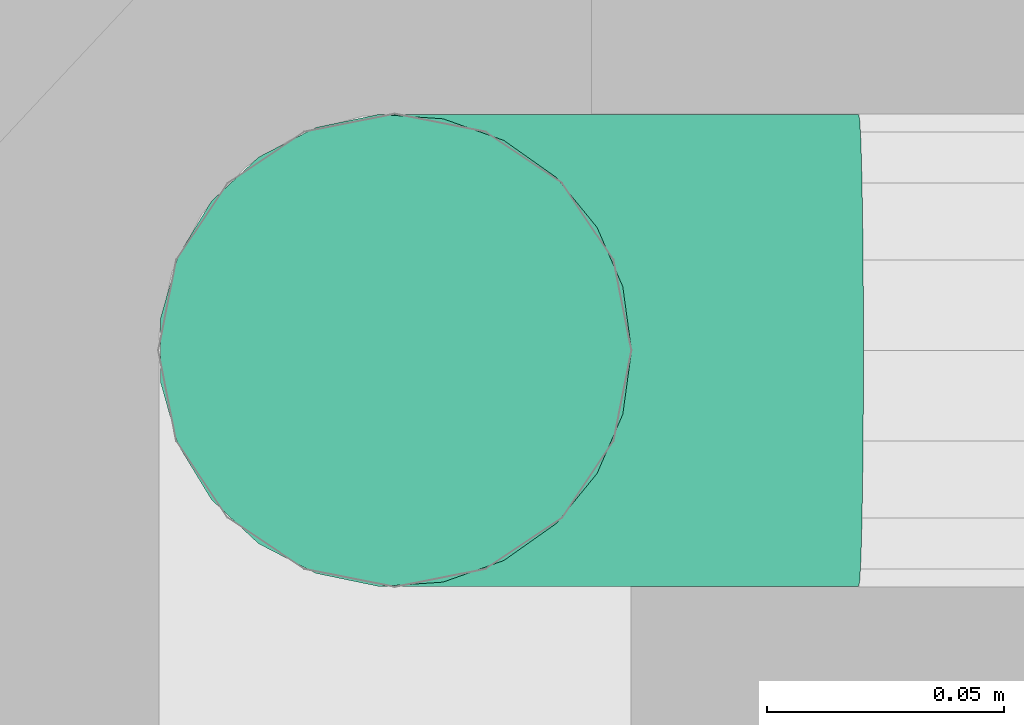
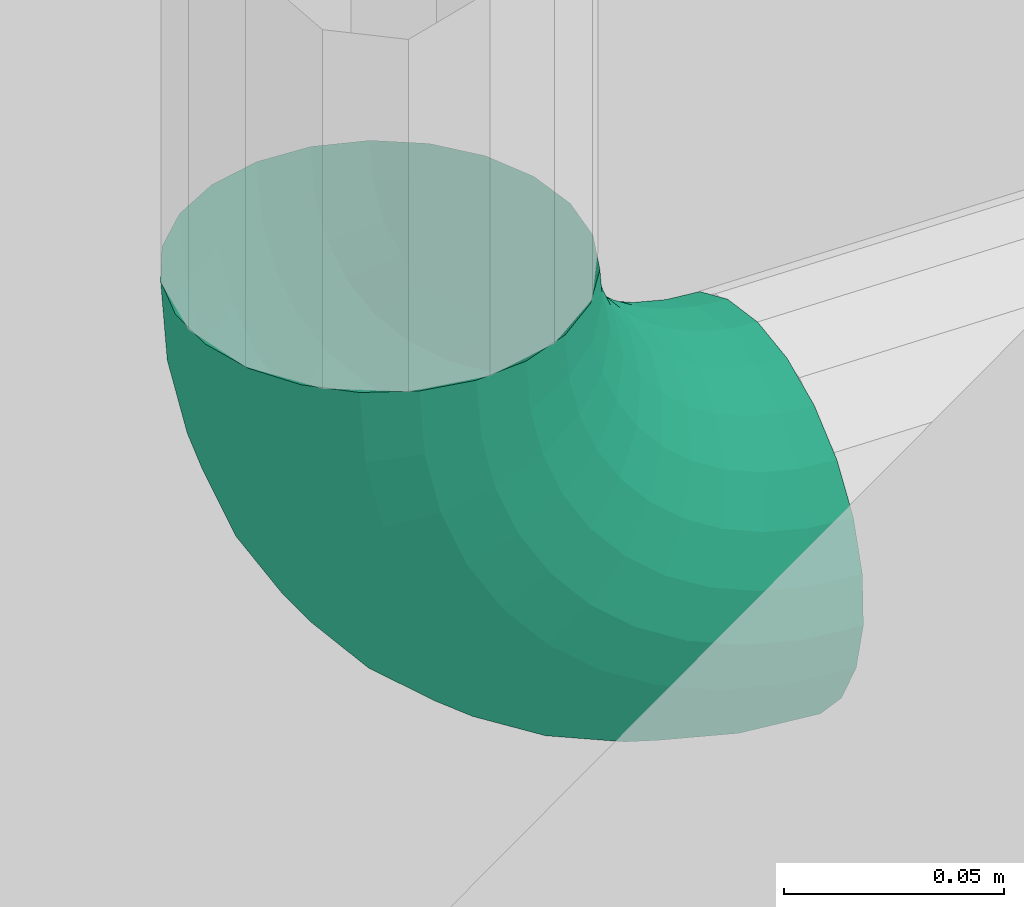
# One storey, part 93 of 108: 1 flow fitting.
"""IFC2X3 building model written with IfcOpenShell, lengths in metres."""

from ifc_helpers import new_model, entity, si_unit, converted_unit, derived_unit, money_unit, direction, frame, origin_with_axes, place, context, subcontext, project, spatial, open_shell, surface_model, material, type_object, element, save


model = new_model("IFC2X3")

# Units and contexts
model_context = context("Model", 3, precision=1e-05, world=origin_with_axes(), true_north=direction((0.0, 1.0)))
body_context = subcontext(model_context, "Body", "Model", "MODEL_VIEW", scale=1.0)
ifc_project = project(units=[si_unit("LENGTHUNIT", "METRE"), si_unit("AREAUNIT", "SQUARE_METRE"), si_unit("VOLUMEUNIT", "CUBIC_METRE"), si_unit("ABSORBEDDOSEUNIT", "GRAY"), si_unit("AMOUNTOFSUBSTANCEUNIT", "MOLE"), si_unit("DOSEEQUIVALENTUNIT", "SIEVERT"), si_unit("ELECTRICCAPACITANCEUNIT", "FARAD"), si_unit("ELECTRICCHARGEUNIT", "COULOMB"), si_unit("ELECTRICCONDUCTANCEUNIT", "SIEMENS"), si_unit("ELECTRICCURRENTUNIT", "AMPERE"), si_unit("ELECTRICRESISTANCEUNIT", "OHM"), si_unit("ELECTRICVOLTAGEUNIT", "VOLT"), si_unit("ENERGYUNIT", "JOULE"), si_unit("FORCEUNIT", "NEWTON"), si_unit("FREQUENCYUNIT", "HERTZ"), si_unit("ILLUMINANCEUNIT", "LUX"), si_unit("INDUCTANCEUNIT", "HENRY"), si_unit("LUMINOUSFLUXUNIT", "LUMEN"), si_unit("LUMINOUSINTENSITYUNIT", "CANDELA"), si_unit("MAGNETICFLUXDENSITYUNIT", "TESLA"), si_unit("MAGNETICFLUXUNIT", "WEBER"), si_unit("MASSUNIT", "GRAM"), converted_unit("PLANEANGLEUNIT", "degree", entity("IfcReal", 0.0174532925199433), si_unit("PLANEANGLEUNIT", "RADIAN"), dimensions=[0, 0, 0, 0, 0, 0, 0]), si_unit("POWERUNIT", "WATT"), si_unit("PRESSUREUNIT", "PASCAL"), si_unit("RADIOACTIVITYUNIT", "BECQUEREL"), si_unit("SOLIDANGLEUNIT", "STERADIAN"), si_unit("THERMODYNAMICTEMPERATUREUNIT", "KELVIN"), si_unit("TIMEUNIT", "SECOND"), derived_unit("ACCELERATIONUNIT", [(si_unit("LENGTHUNIT", "METRE"), 1), (si_unit("TIMEUNIT", "SECOND"), -2)]), derived_unit("ANGULARVELOCITYUNIT", [(converted_unit("PLANEANGLEUNIT", "degree", entity("IfcReal", 0.0174532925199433), si_unit("PLANEANGLEUNIT", "RADIAN"), dimensions=[0, 0, 0, 0, 0, 0, 0]), 1), (si_unit("TIMEUNIT", "SECOND"), -1)]), derived_unit("CURVATUREUNIT", [(converted_unit("PLANEANGLEUNIT", "degree", entity("IfcReal", 0.0174532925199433), si_unit("PLANEANGLEUNIT", "RADIAN"), dimensions=[0, 0, 0, 0, 0, 0, 0]), 1), (si_unit("LENGTHUNIT", "METRE"), -1)]), derived_unit("DYNAMICVISCOSITYUNIT", [(si_unit("PRESSUREUNIT", "PASCAL"), 1), (si_unit("TIMEUNIT", "SECOND"), 1)]), derived_unit("HEATFLUXDENSITYUNIT", [(si_unit("POWERUNIT", "WATT"), 1), (si_unit("LENGTHUNIT", "METRE"), -2)]), derived_unit("HEATINGVALUEUNIT", [(si_unit("ENERGYUNIT", "JOULE"), 1), (si_unit("MASSUNIT", "GRAM"), -1)]), derived_unit("INTEGERCOUNTRATEUNIT", [(si_unit("TIMEUNIT", "SECOND"), -1)]), derived_unit("IONCONCENTRATIONUNIT", [(si_unit("MASSUNIT", "GRAM"), 1), (si_unit("VOLUMEUNIT", "CUBIC_METRE"), -1)]), derived_unit("ISOTHERMALMOISTURECAPACITYUNIT", [(si_unit("VOLUMEUNIT", "CUBIC_METRE"), 1), (si_unit("MASSUNIT", "GRAM"), -1)]), derived_unit("KINEMATICVISCOSITYUNIT", [(si_unit("AREAUNIT", "SQUARE_METRE"), 1), (si_unit("TIMEUNIT", "SECOND"), -1)]), derived_unit("LINEARFORCEUNIT", [(si_unit("FORCEUNIT", "NEWTON"), 1), (si_unit("LENGTHUNIT", "METRE"), -1)]), derived_unit("LINEARMOMENTUNIT", [(si_unit("FORCEUNIT", "NEWTON"), 1), (si_unit("LENGTHUNIT", "METRE"), -1)]), derived_unit("LINEARSTIFFNESSUNIT", [(si_unit("FORCEUNIT", "NEWTON"), 1), (si_unit("LENGTHUNIT", "METRE"), -1)]), derived_unit("LINEARVELOCITYUNIT", [(si_unit("LENGTHUNIT", "METRE"), 1), (si_unit("TIMEUNIT", "SECOND"), -1)]), derived_unit("LUMINOUSINTENSITYDISTRIBUTIONUNIT", [(si_unit("LUMINOUSINTENSITYUNIT", "CANDELA"), 1), (si_unit("LUMINOUSFLUXUNIT", "LUMEN"), -1)]), derived_unit("MASSDENSITYUNIT", [(si_unit("MASSUNIT", "GRAM"), 1), (si_unit("VOLUMEUNIT", "CUBIC_METRE"), -1)]), derived_unit("MASSFLOWRATEUNIT", [(si_unit("MASSUNIT", "GRAM"), 1), (si_unit("TIMEUNIT", "SECOND"), -1)]), derived_unit("MASSPERLENGTHUNIT", [(si_unit("MASSUNIT", "GRAM"), 1), (si_unit("LENGTHUNIT", "METRE"), -1)]), derived_unit("MODULUSOFELASTICITYUNIT", [(si_unit("FORCEUNIT", "NEWTON"), 1), (si_unit("AREAUNIT", "SQUARE_METRE"), -1)]), derived_unit("MODULUSOFLINEARSUBGRADEREACTIONUNIT", [(si_unit("FORCEUNIT", "NEWTON"), 1), (si_unit("LENGTHUNIT", "METRE"), -2)]), derived_unit("MODULUSOFROTATIONALSUBGRADEREACTIONUNIT", [(si_unit("FORCEUNIT", "NEWTON"), 1), (si_unit("LENGTHUNIT", "METRE"), 1)]), derived_unit("MODULUSOFSUBGRADEREACTIONUNIT", [(si_unit("FORCEUNIT", "NEWTON"), 1), (si_unit("VOLUMEUNIT", "CUBIC_METRE"), -1)]), derived_unit("MOISTUREDIFFUSIVITYUNIT", [(si_unit("VOLUMEUNIT", "CUBIC_METRE"), 1), (si_unit("TIMEUNIT", "SECOND"), -1)]), derived_unit("MOLECULARWEIGHTUNIT", [(si_unit("MASSUNIT", "GRAM"), 1), (si_unit("AMOUNTOFSUBSTANCEUNIT", "MOLE"), -1)]), derived_unit("PLANARFORCEUNIT", [(si_unit("FORCEUNIT", "NEWTON"), 1), (si_unit("LENGTHUNIT", "METRE"), -2)]), derived_unit("ROTATIONALFREQUENCYUNIT", [(si_unit("TIMEUNIT", "SECOND"), -1)]), derived_unit("ROTATIONALMASSUNIT", [(si_unit("MASSUNIT", "GRAM"), 1), (si_unit("LENGTHUNIT", "METRE"), 2)]), derived_unit("ROTATIONALSTIFFNESSUNIT", [(si_unit("FORCEUNIT", "NEWTON"), 1), (si_unit("LENGTHUNIT", "METRE"), 1), (converted_unit("PLANEANGLEUNIT", "degree", entity("IfcReal", 0.0174532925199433), si_unit("PLANEANGLEUNIT", "RADIAN"), dimensions=[0, 0, 0, 0, 0, 0, 0]), -1)]), derived_unit("SECTIONAREAINTEGRALUNIT", [(si_unit("LENGTHUNIT", "METRE"), 5)]), derived_unit("SECTIONMODULUSUNIT", [(si_unit("LENGTHUNIT", "METRE"), 3)]), derived_unit("SHEARMODULUSUNIT", [(si_unit("FORCEUNIT", "NEWTON"), 1), (si_unit("AREAUNIT", "SQUARE_METRE"), -1)]), derived_unit("SOUNDPOWERUNIT", [(si_unit("ENERGYUNIT", "JOULE"), 1), (si_unit("TIMEUNIT", "SECOND"), -1)]), derived_unit("SPECIFICHEATCAPACITYUNIT", [(si_unit("FORCEUNIT", "NEWTON"), 1), (si_unit("MASSUNIT", "GRAM"), -1), (si_unit("THERMODYNAMICTEMPERATUREUNIT", "KELVIN"), -1)]), derived_unit("TEMPERATUREGRADIENTUNIT", [(si_unit("THERMODYNAMICTEMPERATUREUNIT", "KELVIN"), 1), (si_unit("LENGTHUNIT", "METRE"), -1)]), derived_unit("THERMALADMITTANCEUNIT", [(si_unit("POWERUNIT", "WATT"), 1), (si_unit("AREAUNIT", "SQUARE_METRE"), -1), (si_unit("THERMODYNAMICTEMPERATUREUNIT", "KELVIN"), -1)]), derived_unit("THERMALCONDUCTANCEUNIT", [(si_unit("POWERUNIT", "WATT"), 1), (si_unit("LENGTHUNIT", "METRE"), -1), (si_unit("THERMODYNAMICTEMPERATUREUNIT", "KELVIN"), -1)]), derived_unit("THERMALEXPANSIONCOEFFICIENTUNIT", [(si_unit("THERMODYNAMICTEMPERATUREUNIT", "KELVIN"), -1)]), derived_unit("THERMALRESISTANCEUNIT", [(si_unit("AREAUNIT", "SQUARE_METRE"), 1), (si_unit("POWERUNIT", "WATT"), -1)]), derived_unit("THERMALTRANSMITTANCEUNIT", [(si_unit("POWERUNIT", "WATT"), 1), (si_unit("AREAUNIT", "SQUARE_METRE"), -1), (si_unit("THERMODYNAMICTEMPERATUREUNIT", "KELVIN"), -1)]), derived_unit("TORQUEUNIT", [(si_unit("FORCEUNIT", "NEWTON"), 1), (si_unit("LENGTHUNIT", "METRE"), 1)]), derived_unit("VAPORPERMEABILITYUNIT", [(si_unit("MASSUNIT", "GRAM"), 1), (si_unit("TIMEUNIT", "SECOND"), -1)]), derived_unit("VOLUMETRICFLOWRATEUNIT", [(si_unit("VOLUMEUNIT", "CUBIC_METRE"), 1), (si_unit("TIMEUNIT", "SECOND"), -1)]), derived_unit("WARPINGCONSTANTUNIT", [(si_unit("LENGTHUNIT", "METRE"), 6)]), derived_unit("WARPINGMOMENTUNIT", [(si_unit("FORCEUNIT", "NEWTON"), 1), (si_unit("LENGTHUNIT", "METRE"), 2)]), money_unit("GBP")], contexts=[model_context])

# Site, building, storey
site_placement = place(None, origin_with_axes())
site = spatial("IfcSite", under=ifc_project, at=site_placement, Name="Site", CompositionType="ELEMENT")
building_placement = place(site_placement, origin_with_axes())
building = spatial("IfcBuilding", under=site, at=building_placement, Name="Building01", CompositionType="ELEMENT")
storey_placement = place(building_placement, origin_with_axes())
storey = spatial("IfcBuildingStorey", under=building, at=storey_placement, Name="GF", CompositionType="ELEMENT", Elevation=0.0)

# Flow fitting
ifc_material = material(Name="M_BSUK_ColdWater")
pipe_fitting_type = type_object("IfcPipeFittingType", Name="M-BmpElbow-DefaultElbow", PredefinedType="BEND")
flow_fitting_placement = place(storey_placement, frame((9.112744, 14.95, 6.34671), z_axis=(-1.0, 0.0, 0.0), x_axis=(0.0, 0.0, 1.0)))
element("IfcFlowFitting", 1, at=flow_fitting_placement, inside=storey, type_object=pipe_fitting_type, material=ifc_material, Name="M-BmpElbow-DefaultElbow", ObjectType="M-BmpElbow-DefaultElbow", context=body_context, shape_type="SurfaceModel", body=[
    surface_model("IfcShellBasedSurfaceModel", [(-0.008009, -0.01349, -0.048768), (0.0, -0.01349, -0.048146), (0.0, 0.0, -0.05), (-0.007723, 0.0, -0.0506), (-0.015826, -0.01349, -0.05062), (-0.015261, 0.0, -0.052386), (-0.023264, -0.01349, -0.053657), (-0.022432, 0.0, -0.055314), (-0.030143, -0.01349, -0.057807), (-0.029065, 0.0, -0.059315), (-0.036298, -0.01349, -0.062969), (-0.035, 0.0, -0.064293), (-0.041582, -0.01349, -0.06902), (-0.040095, 0.0, -0.070127), (-0.045868, -0.01349, -0.075814), (-0.044228, 0.0, -0.076679), (-0.049054, -0.01349, -0.083189), (-0.0473, 0.0, -0.08379), (-0.051061, -0.01349, -0.090968), (-0.049236, 0.0, -0.091291), (-0.051844, -0.01349, -0.098963), (-0.04999, 0.0, -0.099), (-0.008847, -0.025979, -0.043408), (0.0, -0.025979, -0.042721), (-0.017482, -0.025979, -0.045454), (-0.025697, -0.025979, -0.048809), (-0.033296, -0.025979, -0.053392), (-0.040095, -0.025979, -0.059095), (-0.045932, -0.025979, -0.065779), (-0.050667, -0.025979, -0.073284), (-0.054185, -0.025979, -0.081431), (-0.056403, -0.025979, -0.090023), (-0.057268, -0.025979, -0.098855), (-0.010175, -0.036542, -0.034918), (0.0, -0.036542, -0.034128), (-0.020105, -0.036542, -0.037271), (-0.029553, -0.036542, -0.041129), (-0.038291, -0.036542, -0.0464), (-0.046111, -0.036542, -0.052958), (-0.052823, -0.036542, -0.060645), (-0.058268, -0.036542, -0.069276), (-0.062315, -0.036542, -0.078645), (-0.064865, -0.036542, -0.088526), (-0.065859, -0.036542, -0.098683), (-0.011893, -0.044394, -0.023927), (0.0, -0.044394, -0.023003), (-0.0235, -0.044394, -0.026677), (-0.034544, -0.044394, -0.031187), (-0.044758, -0.044394, -0.037348), (-0.053898, -0.044394, -0.045013), (-0.061744, -0.044394, -0.053998), (-0.068109, -0.044394, -0.064087), (-0.072838, -0.044394, -0.075038), (-0.07582, -0.044394, -0.086588), (-0.076981, -0.044394, -0.09846), (-0.013875, -0.048954, -0.011251), (0.0, -0.048954, -0.010173), (-0.027416, -0.048954, -0.014459), (-0.0403, -0.048954, -0.01972), (-0.052216, -0.048954, -0.026908), (-0.062879, -0.048954, -0.035851), (-0.072033, -0.048954, -0.046333), (-0.079458, -0.048954, -0.058103), (-0.084976, -0.048954, -0.070879), (-0.088454, -0.048954, -0.084353), (-0.089809, -0.048954, -0.098204), (-0.015973, -0.049883, 0.002171), (0.0, -0.049883, 0.003412), (-0.031562, -0.049883, -0.001522), (-0.046394, -0.049883, -0.007579), (-0.060113, -0.049883, -0.015854), (-0.072389, -0.049883, -0.026149), (-0.082927, -0.049883, -0.038216), (-0.091475, -0.049883, -0.051767), (-0.097827, -0.049883, -0.066475), (-0.101831, -0.049883, -0.081987), (-0.103391, -0.049883, -0.097932), (-0.018032, -0.047113, 0.015343), (0.0, -0.047113, 0.016744), (-0.035632, -0.047113, 0.011174), (-0.052376, -0.047113, 0.004336), (-0.067863, -0.047113, -0.005006), (-0.081721, -0.047113, -0.016628), (-0.093618, -0.047113, -0.030251), (-0.103268, -0.047113, -0.045548), (-0.110439, -0.047113, -0.062153), (-0.114959, -0.047113, -0.079665), (-0.116721, -0.047113, -0.097665), (-0.0199, -0.040848, 0.027288), (0.0, -0.040848, 0.028834), (-0.039322, -0.040848, 0.022687), (-0.0578, -0.040848, 0.015141), (-0.074891, -0.040848, 0.004831), (-0.090184, -0.040848, -0.007994), (-0.103313, -0.040848, -0.023028), (-0.113962, -0.040848, -0.039909), (-0.121876, -0.040848, -0.058233), (-0.126865, -0.040848, -0.077559), (-0.128808, -0.040848, -0.097424), (-0.021437, -0.031554, 0.03712), (0.0, -0.031554, 0.038786), (-0.042359, -0.031554, 0.032163), (-0.062264, -0.031554, 0.024035), (-0.080675, -0.031554, 0.012929), (-0.09715, -0.031554, -0.000887), (-0.111293, -0.031554, -0.017083), (-0.122765, -0.031554, -0.035268), (-0.13129, -0.031554, -0.055007), (-0.136664, -0.031554, -0.075826), (-0.138758, -0.031554, -0.097225), (-0.022529, -0.01992, 0.04411), (0.0, -0.01992, 0.045861), (-0.044518, -0.01992, 0.038901), (-0.065438, -0.01992, 0.030358), (-0.084788, -0.01992, 0.018686), (-0.102103, -0.01992, 0.004165), (-0.116966, -0.01992, -0.012856), (-0.129023, -0.01992, -0.031968), (-0.137983, -0.01992, -0.052713), (-0.143631, -0.01992, -0.074593), (-0.145831, -0.01992, -0.097083), (-0.023097, -0.006808, 0.04774), (0.0, -0.006808, 0.049534), (-0.045639, -0.006808, 0.042399), (-0.067087, -0.006808, 0.033641), (-0.086924, -0.006808, 0.021675), (-0.104674, -0.006808, 0.006789), (-0.119912, -0.006808, -0.010661), (-0.132273, -0.006808, -0.030254), (-0.141458, -0.006808, -0.051522), (-0.147248, -0.006808, -0.073953), (-0.149504, -0.006808, -0.09701), (-0.023097, 0.006808, 0.04774), (0.0, 0.006808, 0.049534), (-0.045639, 0.006808, 0.042399), (-0.067087, 0.006808, 0.033641), (-0.086924, 0.006808, 0.021675), (-0.104674, 0.006808, 0.006789), (-0.119912, 0.006808, -0.010661), (-0.132273, 0.006808, -0.030254), (-0.141458, 0.006808, -0.051522), (-0.147248, 0.006808, -0.073953), (-0.149504, 0.006808, -0.09701), (-0.022529, 0.01992, 0.04411), (0.0, 0.01992, 0.045861), (-0.044518, 0.01992, 0.038901), (-0.065438, 0.01992, 0.030358), (-0.084788, 0.01992, 0.018686), (-0.102103, 0.01992, 0.004165), (-0.116966, 0.01992, -0.012856), (-0.129023, 0.01992, -0.031968), (-0.137983, 0.01992, -0.052713), (-0.143631, 0.01992, -0.074593), (-0.145831, 0.01992, -0.097083), (-0.021437, 0.031554, 0.03712), (0.0, 0.031554, 0.038786), (-0.042359, 0.031554, 0.032163), (-0.062264, 0.031554, 0.024035), (-0.080675, 0.031554, 0.012929), (-0.09715, 0.031554, -0.000887), (-0.111293, 0.031554, -0.017083), (-0.122765, 0.031554, -0.035268), (-0.13129, 0.031554, -0.055007), (-0.136664, 0.031554, -0.075826), (-0.138758, 0.031554, -0.097225), (-0.0199, 0.040848, 0.027288), (0.0, 0.040848, 0.028834), (-0.039322, 0.040848, 0.022687), (-0.0578, 0.040848, 0.015141), (-0.074891, 0.040848, 0.004831), (-0.090184, 0.040848, -0.007994), (-0.103313, 0.040848, -0.023028), (-0.113962, 0.040848, -0.039909), (-0.121876, 0.040848, -0.058233), (-0.126865, 0.040848, -0.077559), (-0.128808, 0.040848, -0.097424), (-0.018032, 0.047113, 0.015343), (0.0, 0.047113, 0.016744), (-0.035632, 0.047113, 0.011174), (-0.052376, 0.047113, 0.004336), (-0.067863, 0.047113, -0.005006), (-0.081721, 0.047113, -0.016628), (-0.093618, 0.047113, -0.030251), (-0.103268, 0.047113, -0.045548), (-0.110439, 0.047113, -0.062153), (-0.114959, 0.047113, -0.079665), (-0.116721, 0.047113, -0.097665), (-0.015973, 0.049883, 0.002171), (0.0, 0.049883, 0.003412), (-0.031562, 0.049883, -0.001522), (-0.046394, 0.049883, -0.007579), (-0.060113, 0.049883, -0.015854), (-0.072389, 0.049883, -0.026149), (-0.082927, 0.049883, -0.038216), (-0.091475, 0.049883, -0.051767), (-0.097827, 0.049883, -0.066475), (-0.101831, 0.049883, -0.081987), (-0.103391, 0.049883, -0.097932), (-0.013875, 0.048954, -0.011251), (0.0, 0.048954, -0.010173), (-0.027416, 0.048954, -0.014459), (-0.0403, 0.048954, -0.01972), (-0.052216, 0.048954, -0.026908), (-0.062879, 0.048954, -0.035851), (-0.072033, 0.048954, -0.046333), (-0.079458, 0.048954, -0.058103), (-0.084976, 0.048954, -0.070879), (-0.088454, 0.048954, -0.084353), (-0.089809, 0.048954, -0.098204), (-0.011893, 0.044394, -0.023927), (0.0, 0.044394, -0.023003), (-0.0235, 0.044394, -0.026677), (-0.034544, 0.044394, -0.031187), (-0.044758, 0.044394, -0.037348), (-0.053898, 0.044394, -0.045013), (-0.061744, 0.044394, -0.053998), (-0.068109, 0.044394, -0.064087), (-0.072838, 0.044394, -0.075038), (-0.07582, 0.044394, -0.086588), (-0.076981, 0.044394, -0.09846), (-0.010175, 0.036542, -0.034918), (0.0, 0.036542, -0.034128), (-0.020105, 0.036542, -0.037271), (-0.029553, 0.036542, -0.041129), (-0.038291, 0.036542, -0.0464), (-0.046111, 0.036542, -0.052958), (-0.052823, 0.036542, -0.060645), (-0.058268, 0.036542, -0.069276), (-0.062315, 0.036542, -0.078645), (-0.064865, 0.036542, -0.088526), (-0.065859, 0.036542, -0.098683), (-0.008847, 0.025979, -0.043408), (0.0, 0.025979, -0.042721), (-0.017482, 0.025979, -0.045454), (-0.025697, 0.025979, -0.048809), (-0.033296, 0.025979, -0.053392), (-0.040095, 0.025979, -0.059095), (-0.045932, 0.025979, -0.065779), (-0.050667, 0.025979, -0.073284), (-0.054185, 0.025979, -0.081431), (-0.056403, 0.025979, -0.090023), (-0.057268, 0.025979, -0.098855), (-0.008009, 0.01349, -0.048768), (0.0, 0.01349, -0.048146), (-0.015826, 0.01349, -0.05062), (-0.023264, 0.01349, -0.053657), (-0.030143, 0.01349, -0.057807), (-0.036298, 0.01349, -0.062969), (-0.041582, 0.01349, -0.06902), (-0.045868, 0.01349, -0.075814), (-0.049054, 0.01349, -0.083189), (-0.051061, 0.01349, -0.090968), (-0.051844, 0.01349, -0.098963)], [open_shell([[[0, 1, 2, 3]], [[4, 0, 3, 5]], [[6, 4, 5, 7]], [[8, 6, 7, 9]], [[10, 8, 9, 11]], [[12, 10, 11, 13]], [[14, 12, 13, 15]], [[16, 14, 15, 17]], [[18, 16, 17, 19]], [[20, 18, 19, 21]], [[22, 23, 1, 0]], [[24, 22, 0, 4]], [[25, 24, 4, 6]], [[26, 25, 6, 8]], [[27, 26, 8, 10]], [[28, 27, 10, 12]], [[29, 28, 12, 14]], [[30, 29, 14, 16]], [[31, 30, 16, 18]], [[32, 31, 18, 20]], [[33, 34, 23, 22]], [[35, 33, 22, 24]], [[36, 35, 24, 25]], [[37, 36, 25, 26]], [[38, 37, 26, 27]], [[39, 38, 27, 28]], [[40, 39, 28, 29]], [[41, 40, 29, 30]], [[42, 41, 30, 31]], [[43, 42, 31, 32]], [[44, 45, 34, 33]], [[46, 44, 33, 35]], [[47, 46, 35, 36]], [[48, 47, 36, 37]], [[49, 48, 37, 38]], [[50, 49, 38, 39]], [[51, 50, 39, 40]], [[52, 51, 40, 41]], [[53, 52, 41, 42]], [[54, 53, 42, 43]], [[55, 56, 45, 44]], [[57, 55, 44, 46]], [[58, 57, 46, 47]], [[59, 58, 47, 48]], [[60, 59, 48, 49]], [[61, 60, 49, 50]], [[62, 61, 50, 51]], [[63, 62, 51, 52]], [[64, 63, 52, 53]], [[65, 64, 53, 54]], [[66, 67, 56, 55]], [[68, 66, 55, 57]], [[69, 68, 57, 58]], [[70, 69, 58, 59]], [[71, 70, 59, 60]], [[72, 71, 60, 61]], [[73, 72, 61, 62]], [[74, 73, 62, 63]], [[75, 74, 63, 64]], [[76, 75, 64, 65]], [[77, 78, 67, 66]], [[79, 77, 66, 68]], [[80, 79, 68, 69]], [[81, 80, 69, 70]], [[82, 81, 70, 71]], [[83, 82, 71, 72]], [[84, 83, 72, 73]], [[85, 84, 73, 74]], [[86, 85, 74, 75]], [[87, 86, 75, 76]], [[88, 89, 78, 77]], [[90, 88, 77, 79]], [[91, 90, 79, 80]], [[92, 91, 80, 81]], [[93, 92, 81, 82]], [[94, 93, 82, 83]], [[95, 94, 83, 84]], [[96, 95, 84, 85]], [[97, 96, 85, 86]], [[98, 97, 86, 87]], [[99, 100, 89, 88]], [[101, 99, 88, 90]], [[102, 101, 90, 91]], [[103, 102, 91, 92]], [[104, 103, 92, 93]], [[105, 104, 93, 94]], [[106, 105, 94, 95]], [[107, 106, 95, 96]], [[108, 107, 96, 97]], [[109, 108, 97, 98]], [[110, 111, 100, 99]], [[112, 110, 99, 101]], [[113, 112, 101, 102]], [[114, 113, 102, 103]], [[115, 114, 103, 104]], [[116, 115, 104, 105]], [[117, 116, 105, 106]], [[118, 117, 106, 107]], [[119, 118, 107, 108]], [[120, 119, 108, 109]], [[121, 122, 111, 110]], [[123, 121, 110, 112]], [[124, 123, 112, 113]], [[125, 124, 113, 114]], [[126, 125, 114, 115]], [[127, 126, 115, 116]], [[128, 127, 116, 117]], [[129, 128, 117, 118]], [[130, 129, 118, 119]], [[131, 130, 119, 120]], [[132, 133, 122, 121]], [[134, 132, 121, 123]], [[135, 134, 123, 124]], [[136, 135, 124, 125]], [[137, 136, 125, 126]], [[138, 137, 126, 127]], [[139, 138, 127, 128]], [[140, 139, 128, 129]], [[141, 140, 129, 130]], [[142, 141, 130, 131]], [[143, 144, 133, 132]], [[145, 143, 132, 134]], [[146, 145, 134, 135]], [[147, 146, 135, 136]], [[148, 147, 136, 137]], [[149, 148, 137, 138]], [[150, 149, 138, 139]], [[151, 150, 139, 140]], [[152, 151, 140, 141]], [[153, 152, 141, 142]], [[154, 155, 144, 143]], [[156, 154, 143, 145]], [[157, 156, 145, 146]], [[158, 157, 146, 147]], [[159, 158, 147, 148]], [[160, 159, 148, 149]], [[161, 160, 149, 150]], [[162, 161, 150, 151]], [[163, 162, 151, 152]], [[164, 163, 152, 153]], [[165, 166, 155, 154]], [[167, 165, 154, 156]], [[168, 167, 156, 157]], [[169, 168, 157, 158]], [[170, 169, 158, 159]], [[171, 170, 159, 160]], [[172, 171, 160, 161]], [[173, 172, 161, 162]], [[174, 173, 162, 163]], [[175, 174, 163, 164]], [[176, 177, 166, 165]], [[178, 176, 165, 167]], [[179, 178, 167, 168]], [[180, 179, 168, 169]], [[181, 180, 169, 170]], [[182, 181, 170, 171]], [[183, 182, 171, 172]], [[184, 183, 172, 173]], [[185, 184, 173, 174]], [[186, 185, 174, 175]], [[187, 188, 177, 176]], [[189, 187, 176, 178]], [[190, 189, 178, 179]], [[191, 190, 179, 180]], [[192, 191, 180, 181]], [[193, 192, 181, 182]], [[194, 193, 182, 183]], [[195, 194, 183, 184]], [[196, 195, 184, 185]], [[197, 196, 185, 186]], [[198, 199, 188, 187]], [[200, 198, 187, 189]], [[201, 200, 189, 190]], [[202, 201, 190, 191]], [[203, 202, 191, 192]], [[204, 203, 192, 193]], [[205, 204, 193, 194]], [[206, 205, 194, 195]], [[207, 206, 195, 196]], [[208, 207, 196, 197]], [[209, 210, 199, 198]], [[211, 209, 198, 200]], [[212, 211, 200, 201]], [[213, 212, 201, 202]], [[214, 213, 202, 203]], [[215, 214, 203, 204]], [[216, 215, 204, 205]], [[217, 216, 205, 206]], [[218, 217, 206, 207]], [[219, 218, 207, 208]], [[220, 221, 210, 209]], [[222, 220, 209, 211]], [[223, 222, 211, 212]], [[224, 223, 212, 213]], [[225, 224, 213, 214]], [[226, 225, 214, 215]], [[227, 226, 215, 216]], [[228, 227, 216, 217]], [[229, 228, 217, 218]], [[230, 229, 218, 219]], [[231, 232, 221, 220]], [[233, 231, 220, 222]], [[234, 233, 222, 223]], [[235, 234, 223, 224]], [[236, 235, 224, 225]], [[237, 236, 225, 226]], [[238, 237, 226, 227]], [[239, 238, 227, 228]], [[240, 239, 228, 229]], [[241, 240, 229, 230]], [[242, 243, 232, 231]], [[244, 242, 231, 233]], [[245, 244, 233, 234]], [[246, 245, 234, 235]], [[247, 246, 235, 236]], [[248, 247, 236, 237]], [[249, 248, 237, 238]], [[250, 249, 238, 239]], [[251, 250, 239, 240]], [[252, 251, 240, 241]], [[3, 2, 243, 242]], [[5, 3, 242, 244]], [[7, 5, 244, 245]], [[9, 7, 245, 246]], [[11, 9, 246, 247]], [[13, 11, 247, 248]], [[15, 13, 248, 249]], [[17, 15, 249, 250]], [[19, 17, 250, 251]], [[21, 19, 251, 252]]])]),
])

save(model, "model.ifc")
